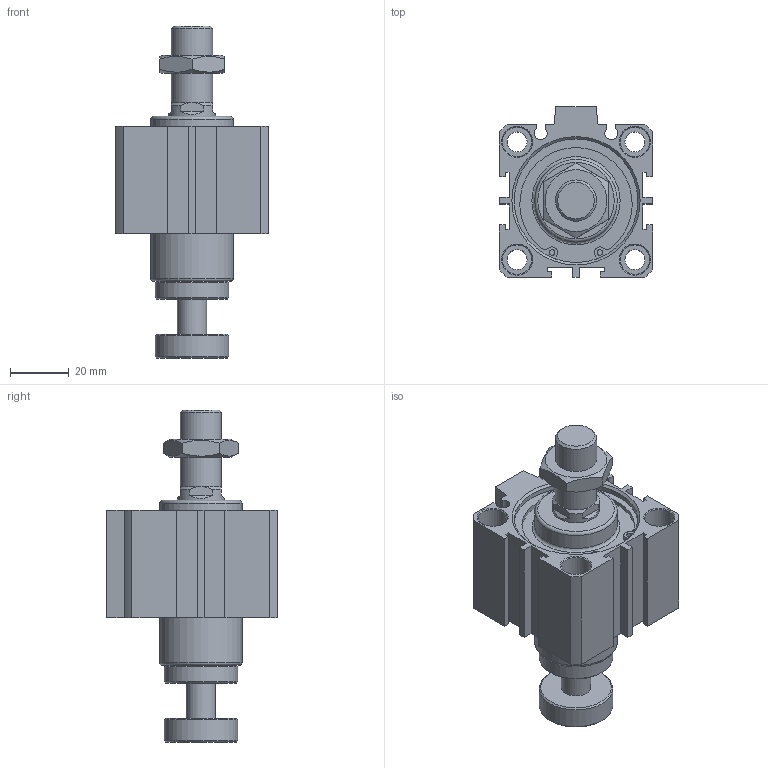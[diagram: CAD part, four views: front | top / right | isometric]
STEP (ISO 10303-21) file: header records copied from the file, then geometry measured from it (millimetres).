
FILE_DESCRIPTION((''),'2;1');
FILE_NAME('I:\3D電子目錄\氣缸\JDAR\JDAR-B\JDAR40-B\JDAR40x10-B.stp','2007-03-14T14:52:37',('662F206'),(''),'Autodesk Inventor 11','Autodesk Inventor 11','');
FILE_SCHEMA(('AUTOMOTIVE_DESIGN { 1 0 10303 214 1 1 1 1 }'));
Length unit declared in the file: millimetre
Products named in the file (3): JDAR40-B; R 形環 42
Assembly tree (3 placements, depth 2):
  JDAR40-B
    JDAR40-B
    R 形環 42  x2
Bounding box: 52 x 58 x 112.8 mm (x, y, z)
Volume: 105698.4 mm3; surface area: 30409.6 mm2
Topology: 3 solids, 3 shells, 179 faces, 418 edges, 271 vertices
Faces by surface type: plane 100, cylinder 50, cone 25, bspline 2, torus 2
Full cylindrical faces by diameter (mm): 1.9 x4, 2.2 x2, 6.8 x4, 10 x9, 14 x2, 16 x1, 25 x2, 28 x2, 42 x4, 44.5 x2
Entity records: 4585 total; most frequent: CARTESIAN_POINT 873, DIRECTION 770, ORIENTED_EDGE 654, EDGE_CURVE 327, AXIS2_PLACEMENT_3D 292, EDGE_LOOP 260, VERTEX_POINT 245, VECTOR 186
